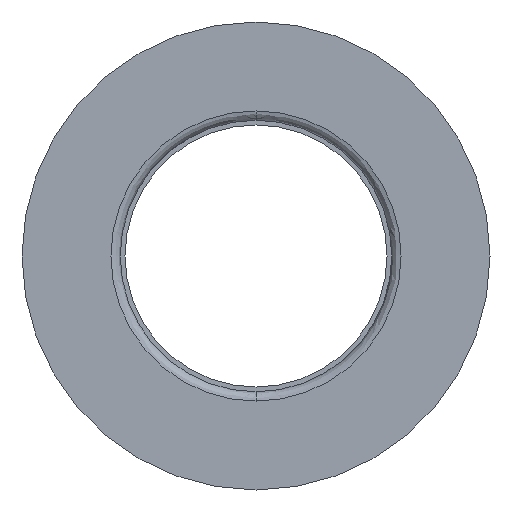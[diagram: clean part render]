
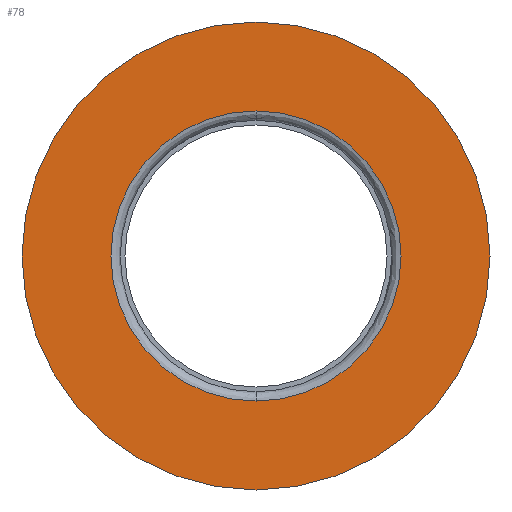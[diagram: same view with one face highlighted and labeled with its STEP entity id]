
A CAD part, left-side view. The second image highlights one B-rep face of the part: STEP entity #78.
In plain terms, the highlighted free-form (B-spline) face has degree [1, 1] with [2, 2] control points.
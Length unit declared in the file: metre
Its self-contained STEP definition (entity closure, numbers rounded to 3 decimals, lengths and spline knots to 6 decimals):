
#78 = ADVANCED_FACE( '', ( #105, #106 ), #107, .T. );
#105 = FACE_BOUND( '', #160, .T. );
#106 = FACE_OUTER_BOUND( '', #161, .T. );
#107 = B_SPLINE_SURFACE_WITH_KNOTS( '', 1, 1, ( ( #162, #163 ), ( #164, #165 ) ), .UNSPECIFIED., .F., .F., .F., ( 2, 2 ), ( 2, 2 ), ( 0., 1. ), ( 0., 1. ), .UNSPECIFIED. );
#160 = EDGE_LOOP( '', ( #339, #340 ) );
#161 = EDGE_LOOP( '', ( #341, #342 ) );
#162 = CARTESIAN_POINT( '', ( -0.02, -0.01265, -0.01265 ) );
#163 = CARTESIAN_POINT( '', ( -0.02, 0.01265, -0.01265 ) );
#164 = CARTESIAN_POINT( '', ( -0.02, -0.01265, 0.01265 ) );
#165 = CARTESIAN_POINT( '', ( -0.02, 0.01265, 0.01265 ) );
#339 = ORIENTED_EDGE( '', *, *, #487, .T. );
#340 = ORIENTED_EDGE( '', *, *, #488, .T. );
#341 = ORIENTED_EDGE( '', *, *, #489, .T. );
#342 = ORIENTED_EDGE( '', *, *, #490, .T. );
#487 = EDGE_CURVE( '', #539, #540, #541, .F. );
#488 = EDGE_CURVE( '', #540, #539, #542, .F. );
#489 = EDGE_CURVE( '', #543, #544, #545, .F. );
#490 = EDGE_CURVE( '', #544, #543, #546, .F. );
#539 = VERTEX_POINT( '', #619 );
#540 = VERTEX_POINT( '', #620 );
#541 = CIRCLE( '', #621, 0.00775 );
#542 = CIRCLE( '', #622, 0.00775 );
#543 = VERTEX_POINT( '', #623 );
#544 = VERTEX_POINT( '', #624 );
#545 = CIRCLE( '', #625, 0.0125 );
#546 = CIRCLE( '', #626, 0.0125 );
#619 = CARTESIAN_POINT( '', ( -0.02, 0., -0.00775 ) );
#620 = CARTESIAN_POINT( '', ( -0.02, 0., 0.00775 ) );
#621 = AXIS2_PLACEMENT_3D( '', #749, #750, #751 );
#622 = AXIS2_PLACEMENT_3D( '', #752, #753, #754 );
#623 = CARTESIAN_POINT( '', ( -0.02, 0., 0.0125 ) );
#624 = CARTESIAN_POINT( '', ( -0.02, 0., -0.0125 ) );
#625 = AXIS2_PLACEMENT_3D( '', #755, #756, #757 );
#626 = AXIS2_PLACEMENT_3D( '', #758, #759, #760 );
#749 = CARTESIAN_POINT( '', ( -0.02, 0., 0. ) );
#750 = DIRECTION( '', ( -1., 0., 0. ) );
#751 = DIRECTION( '', ( 0., 0., 1. ) );
#752 = CARTESIAN_POINT( '', ( -0.02, 0., 0. ) );
#753 = DIRECTION( '', ( -1., 0., 0. ) );
#754 = DIRECTION( '', ( 0., 0., 1. ) );
#755 = CARTESIAN_POINT( '', ( -0.02, 0., 0. ) );
#756 = DIRECTION( '', ( 1., 0., 0. ) );
#757 = DIRECTION( '', ( 0., 0., -1. ) );
#758 = CARTESIAN_POINT( '', ( -0.02, 0., 0. ) );
#759 = DIRECTION( '', ( 1., 0., 0. ) );
#760 = DIRECTION( '', ( 0., 0., -1. ) );
